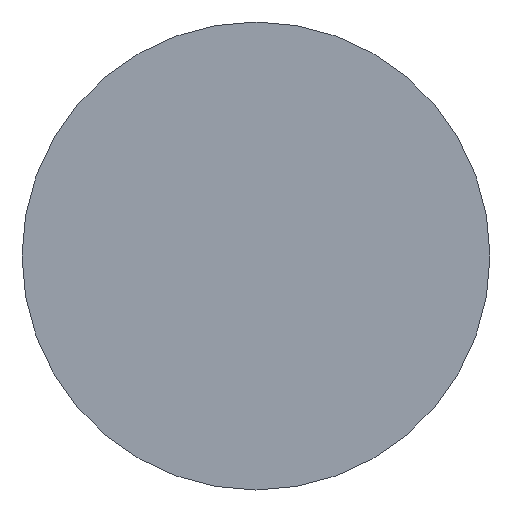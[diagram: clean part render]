
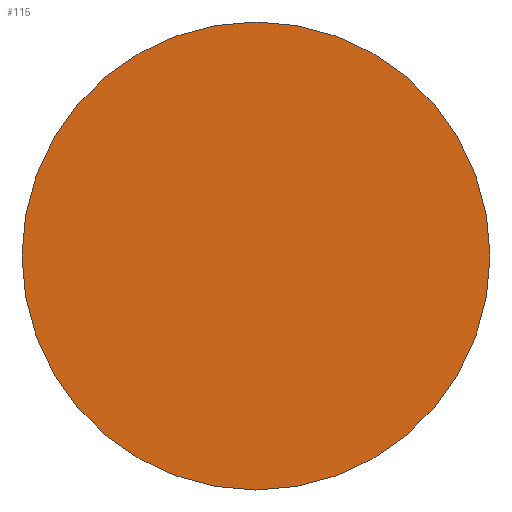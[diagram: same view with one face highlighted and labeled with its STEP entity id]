
A CAD part, left-side view. The second image highlights one B-rep face of the part: STEP entity #115.
In plain terms, the highlighted planar face has unit normal (-1, 0, 0).
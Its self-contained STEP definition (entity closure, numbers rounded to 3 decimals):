
#3 = ORIENTED_EDGE ( 'NONE', *, *, #124, .T. ) ;
#9 = CIRCLE ( 'NONE', #131, 5.5 ) ;
#15 = CIRCLE ( 'NONE', #138, 5.5 ) ;
#17 = EDGE_LOOP ( 'NONE', ( #42, #3 ) ) ;
#36 = FACE_OUTER_BOUND ( 'NONE', #17, .T. ) ;
#42 = ORIENTED_EDGE ( 'NONE', *, *, #119, .T. ) ;
#74 = DIRECTION ( 'NONE',  ( 0., 0., 1. ) ) ;
#75 = DIRECTION ( 'NONE',  ( -1., 0., 0. ) ) ;
#77 = CARTESIAN_POINT ( 'NONE',  ( -157.5, 0., 0. ) ) ;
#85 = CARTESIAN_POINT ( 'NONE',  ( -157.5, 0., 5.5 ) ) ;
#86 = DIRECTION ( 'NONE',  ( 0., 0., 1. ) ) ;
#87 = DIRECTION ( 'NONE',  ( -1., 0., 0. ) ) ;
#89 = CARTESIAN_POINT ( 'NONE',  ( -157.5, 0., 0. ) ) ;
#92 = VERTEX_POINT ( 'NONE', #85 ) ;
#94 = DIRECTION ( 'NONE',  ( 0., 0., 1. ) ) ;
#96 = DIRECTION ( 'NONE',  ( -1., 0., 0. ) ) ;
#98 = PLANE ( 'NONE',  #126 ) ;
#99 = CARTESIAN_POINT ( 'NONE',  ( -157.5, 0., 0. ) ) ;
#105 = VERTEX_POINT ( 'NONE', #112 ) ;
#112 = CARTESIAN_POINT ( 'NONE',  ( -157.5, 0., -5.5 ) ) ;
#115 = ADVANCED_FACE ( 'NONE', ( #36 ), #98, .T. ) ;
#119 = EDGE_CURVE ( 'NONE', #92, #105, #9, .T. ) ;
#124 = EDGE_CURVE ( 'NONE', #105, #92, #15, .T. ) ;
#126 = AXIS2_PLACEMENT_3D ( 'NONE', #99, #96, #94 ) ;
#131 = AXIS2_PLACEMENT_3D ( 'NONE', #89, #87, #86 ) ;
#138 = AXIS2_PLACEMENT_3D ( 'NONE', #77, #75, #74 ) ;
